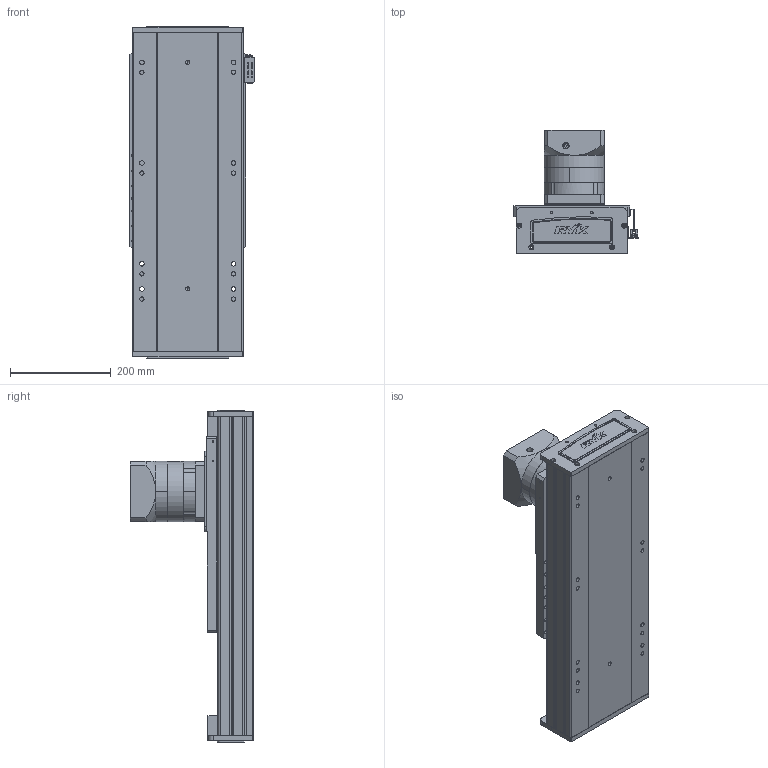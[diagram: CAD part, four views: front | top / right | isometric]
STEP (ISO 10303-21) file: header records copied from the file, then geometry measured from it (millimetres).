
FILE_DESCRIPTION (( 'STEP AP203' ), '1' );
FILE_NAME ('RY220-C-300-UK.SLDASM_0150.step', '2022-08-01T05:58:26', ( '' ), ( '' ), 'SwSTEP 2.0', 'SolidWorks 2016', '' );
FILE_SCHEMA (( 'CONFIG_CONTROL_DESIGN' ));
Length unit declared in the file: millimetre
Products named in the file (10): RY220喘沭賑輸; RY220菁釱MK-300_0150; 覜茼ん674; RY220-C-300-UK.SLDASM_0150; RY220喘沭綴裔啣; PF115L1-S2-22-58-110-145-M8; RY220喘沭俋离覜茼え; RY140直线电机感应器674光电安装座; RY220-齿条模组电机安装板; 滅袉蝶輸ㄗG412隅秶ㄘ
Assembly tree (12 placements, depth 2):
  RY220-C-300-UK.SLDASM_0150
    RY220菁釱MK-300_0150
    RY220喘沭賑輸
    RY220-齿条模组电机安装板
    PF115L1-S2-22-58-110-145-M8
    RY220喘沭綴裔啣  x2
    滅袉蝶輸ㄗG412隅秶ㄘ  x2
    RY140直线电机感应器674光电安装座
    覜茼ん674  x2
    RY220喘沭俋离覜茼え
Bounding box: 247 x 244.5 x 659 mm (x, y, z)
Volume: 7817869.5 mm3; surface area: 1429875.9 mm2
Topology: 18 solids, 26 shells, 1774 faces, 4737 edges, 3061 vertices
Faces by surface type: cylinder 771, plane 751, bspline 162, cone 90
Entity records: 55893 total; most frequent: CARTESIAN_POINT 15603, ORIENTED_EDGE 8194, DIRECTION 8123, EDGE_CURVE 4097, AXIS2_PLACEMENT_3D 3049, VERTEX_POINT 2687, LINE 2025, VECTOR 2025
